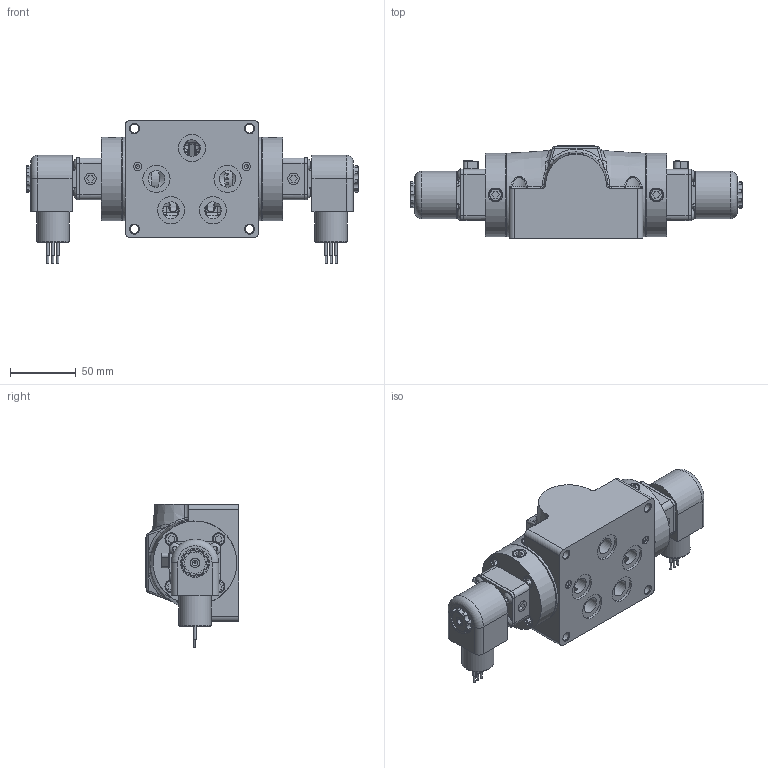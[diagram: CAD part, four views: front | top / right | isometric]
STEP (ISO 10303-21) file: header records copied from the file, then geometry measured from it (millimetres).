
FILE_DESCRIPTION(/* description */ (''),/* implementation_level */ '2;1');
FILE_NAME(/* name */ 'D:\Website Files\stp\Valves\Standard\ESS\ESS4PXO.stp',/* time_stamp */ '2016-01-19T12:22:46-05:00',/* author */ ('RMcKenna'),/* organization */ (''),/* preprocessor_version */ 'ST-DEVELOPER v15.6',/* originating_system */ 'Autodesk Inventor 2015',/* authorisation */ '');
FILE_SCHEMA (('AUTOMOTIVE_DESIGN { 1 0 10303 214 3 1 1 }'));
Products named in the file (1): Part95
Bounding box: 252.01 x 71.21 x 108.81 mm (x, y, z)
Volume: 672798.5 mm3; surface area: 161487.1 mm2
Topology: 1 solids, 41 shells, 2830 faces, 6870 edges, 4320 vertices
Faces by surface type: plane 1107, cylinder 805, cone 365, bspline 335, torus 192, sphere 26
Full cylindrical faces by diameter (mm): 1.3 x2, 1.397 x2, 1.5 x4, 1.524 x6, 2.007 x4, 2.032 x22, 2.07 x2, 2.261 x2, 2.35 x8, 2.388 x2, 2.5 x2, 2.778 x2, 2.8 x2, 3 x8, 3.048 x8, 3.175 x6, 3.4 x2, 3.683 x10, 4.191 x4, 4.305 x2, 4.826 x8, 4.978 x8, 5.15 x8, 5.156 x8, 5.5 x2, 6.35 x10, 6.629 x4, 6.65 x2, 6.747 x8, 6.9 x2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
Entity records: 94220 total; most frequent: CARTESIAN_POINT 30014, ORIENTED_EDGE 12368, DIRECTION 12180, EDGE_CURVE 6180, AXIS2_PLACEMENT_3D 4754, VERTEX_POINT 4096, EDGE_LOOP 3596, FACE_OUTER_BOUND 2830
